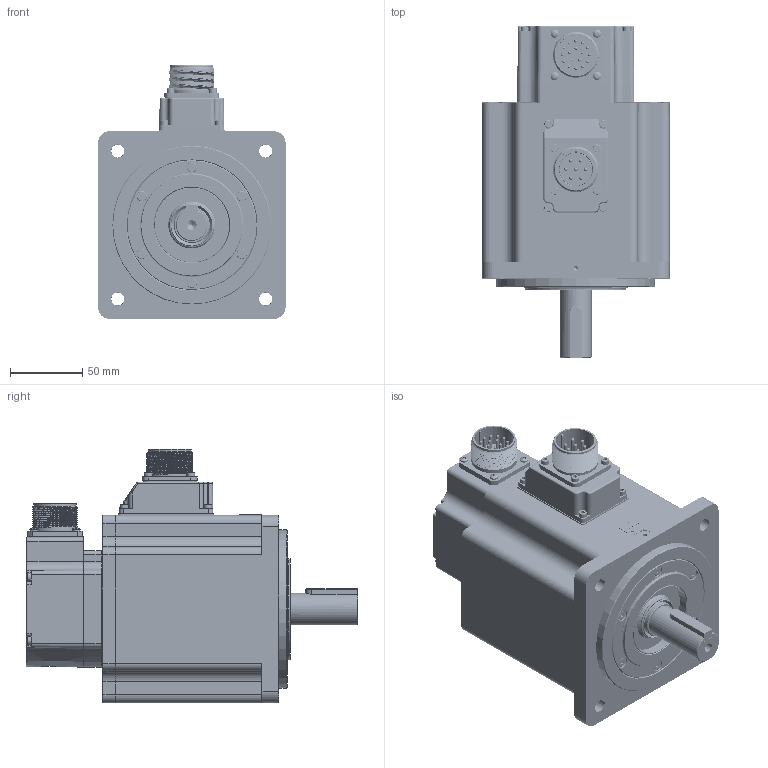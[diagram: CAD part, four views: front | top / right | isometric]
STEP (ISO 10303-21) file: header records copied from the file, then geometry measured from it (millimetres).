
FILE_DESCRIPTION(/* description */ ('AdapterTestApp'),/* implementation_level */ '2;1');
FILE_NAME(/* name */ 'TCE130 5F XX 3 A1 0 C3',/* time_stamp */ '2015-09-07T14:40:36+02:00',/* author */ ('AdapterTestApp'),/* organization */ ('Siemens PLM Software'),/* preprocessor_version */ 'ST-DEVELOPER v15.6',/* originating_system */ 'DEX',/* authorisation */ $);
FILE_SCHEMA (('AUTOMOTIVE_DESIGN {1 0 10303 214 3 1 1}'));
Products named in the file (34): TCE130 5F XX 3 A1 0 C3_vuoto; U5160002_vuoto; 003120002514; 003799000580; 003303000370; 003303000373; 005117001750; 005911000201; 005911000150; cap-M3 nudo; 005123001528; 005204000001; 005911000430; N0160021; 005123000600; 003103001509; 005008000690; 005911000203; back cover TCE100 + CN MIL; 001107000620; 005911000525; 003108015154; 003251022006; 005911003623; 005911000493; 005204000002; 005204000003; 005113002005; 005119000340; 003155002049; 003155002050; 005007000170; 005008000842; 005008000302
Assembly tree (63 placements, depth 3):
  TCE130 5F XX 3 A1 0 C3_vuoto
    U5160002_vuoto
      003120002514
      003799000580
      003303000370
      003303000373
      005117001750
      005911000201  x8
      005911000150
      cap-M3 nudo
    005123001528
    005204000001
    005911000430  x6
    N0160021
    005123000600
    003103001509
    005008000690  x2
    005911000203  x4
    back cover TCE100 + CN MIL
      001107000620
      003303000373
      005911000525  x4
      003108015154
    003251022006
    005911003623  x8
    005911000493  x4
    005204000002
    005204000003
    005113002005
    005119000340
    003155002049
    003155002050
    005007000170
    005008000842
    005008000302
Bounding box: 130.3 x 230 x 175.8 mm (x, y, z)
Volume: 988043 mm3; surface area: 379331.4 mm2
Topology: 76 solids, 86 shells, 3047 faces, 7532 edges, 4852 vertices
Faces by surface type: plane 1540, cylinder 735, extrusion 233, cone 167, torus 160, bspline 140, sphere 72
Full cylindrical faces by diameter (mm): 2 x34, 2.224 x1, 2.4 x8, 2.459 x23, 2.5 x1, 2.6 x1, 2.8 x7, 2.9 x4, 3 x30, 3.048 x4, 3.2 x5, 3.242 x24, 3.5 x15, 3.6 x1, 3.7 x8, 3.8 x2, 4 x23, 4.134 x16, 4.5 x10, 4.7 x11, 5 x8, 5.1 x1, 5.5 x35, 5.6 x4, 5.8 x6, 6.647 x2, 7 x10, 8 x10, 8.5 x8, 10 x1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
Entity records: 93100 total; most frequent: CARTESIAN_POINT 33452, ORIENTED_EDGE 11408, DIRECTION 11244, EDGE_CURVE 5704, VERTEX_POINT 4016, AXIS2_PLACEMENT_3D 3923, FACE_BOUND 3562, EDGE_LOOP 3508
